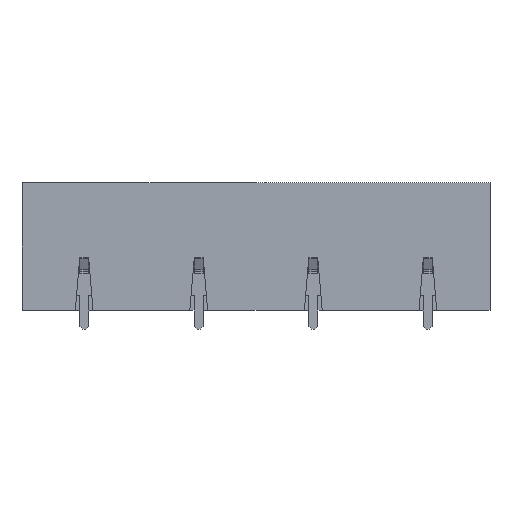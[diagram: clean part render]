
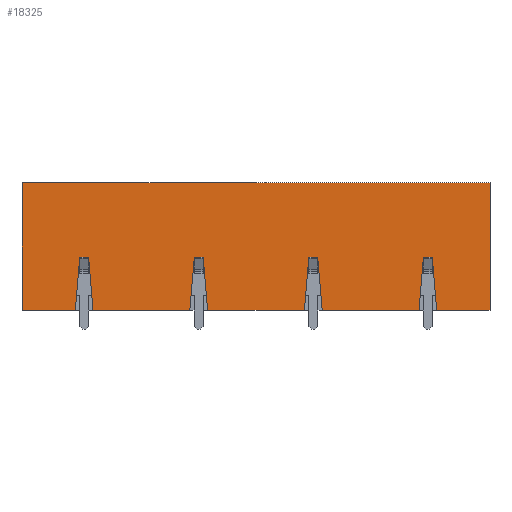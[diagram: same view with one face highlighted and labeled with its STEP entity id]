
A CAD part, left-side view. The second image highlights one B-rep face of the part: STEP entity #18325.
In plain terms, the highlighted planar face has unit normal (-1, 0, 0) as drawn and (1, 0, 0) by its records, which use the part's own axes.
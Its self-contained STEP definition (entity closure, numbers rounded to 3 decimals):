
#13220 = VERTEX_POINT('',#13221);
#13221 = CARTESIAN_POINT('',(-38.99,39.42,0.));
#13229 = EDGE_CURVE('',#13220,#13230,#13232,.T.);
#13230 = VERTEX_POINT('',#13231);
#13231 = CARTESIAN_POINT('',(-38.99,39.42,21.54));
#13232 = LINE('',#13233,#13234);
#13233 = CARTESIAN_POINT('',(-38.99,39.42,0.));
#13234 = VECTOR('',#13235,1.);
#13235 = DIRECTION('',(0.,0.,1.));
#13537 = VERTEX_POINT('',#13538);
#13538 = CARTESIAN_POINT('',(-38.99,-39.42,21.54));
#13544 = EDGE_CURVE('',#13545,#13537,#13547,.T.);
#13545 = VERTEX_POINT('',#13546);
#13546 = CARTESIAN_POINT('',(-38.99,-39.42,0.));
#13547 = LINE('',#13548,#13549);
#13548 = CARTESIAN_POINT('',(-38.99,-39.42,0.));
#13549 = VECTOR('',#13550,1.);
#13550 = DIRECTION('',(0.,0.,1.));
#13622 = EDGE_CURVE('',#13623,#13625,#13627,.T.);
#13623 = VERTEX_POINT('',#13624);
#13624 = CARTESIAN_POINT('',(-38.99,10.4,9.));
#13625 = VERTEX_POINT('',#13626);
#13626 = CARTESIAN_POINT('',(-38.99,11.15,0.));
#13627 = LINE('',#13628,#13629);
#13628 = CARTESIAN_POINT('',(-38.99,10.4,9.));
#13629 = VECTOR('',#13630,1.);
#13630 = DIRECTION('',(-0.,0.083,-0.997));
#13710 = EDGE_CURVE('',#13711,#13713,#13715,.T.);
#13711 = VERTEX_POINT('',#13712);
#13712 = CARTESIAN_POINT('',(-38.99,8.15,0.));
#13713 = VERTEX_POINT('',#13714);
#13714 = CARTESIAN_POINT('',(-38.99,8.9,9.));
#13715 = LINE('',#13716,#13717);
#13716 = CARTESIAN_POINT('',(-38.99,8.15,0.));
#13717 = VECTOR('',#13718,1.);
#13718 = DIRECTION('',(0.,0.083,0.997));
#14569 = EDGE_CURVE('',#14570,#14572,#14574,.T.);
#14570 = VERTEX_POINT('',#14571);
#14571 = CARTESIAN_POINT('',(-38.99,29.7,9.));
#14572 = VERTEX_POINT('',#14573);
#14573 = CARTESIAN_POINT('',(-38.99,30.45,0.));
#14574 = LINE('',#14575,#14576);
#14575 = CARTESIAN_POINT('',(-38.99,29.7,9.));
#14576 = VECTOR('',#14577,1.);
#14577 = DIRECTION('',(-0.,0.083,-0.997));
#14609 = EDGE_CURVE('',#14610,#14570,#14612,.T.);
#14610 = VERTEX_POINT('',#14611);
#14611 = CARTESIAN_POINT('',(-38.99,28.2,9.));
#14612 = LINE('',#14613,#14614);
#14613 = CARTESIAN_POINT('',(-38.99,28.2,9.));
#14614 = VECTOR('',#14615,1.);
#14615 = DIRECTION('',(0.,1.,0.));
#14633 = EDGE_CURVE('',#14634,#14610,#14636,.T.);
#14634 = VERTEX_POINT('',#14635);
#14635 = CARTESIAN_POINT('',(-38.99,27.45,0.));
#14636 = LINE('',#14637,#14638);
#14637 = CARTESIAN_POINT('',(-38.99,27.45,0.));
#14638 = VECTOR('',#14639,1.);
#14639 = DIRECTION('',(0.,0.083,0.997));
#14761 = EDGE_CURVE('',#13713,#13623,#14762,.T.);
#14762 = LINE('',#14763,#14764);
#14763 = CARTESIAN_POINT('',(-38.99,8.9,9.));
#14764 = VECTOR('',#14765,1.);
#14765 = DIRECTION('',(0.,1.,0.));
#14890 = EDGE_CURVE('',#14891,#14893,#14895,.T.);
#14891 = VERTEX_POINT('',#14892);
#14892 = CARTESIAN_POINT('',(-38.99,-8.9,9.));
#14893 = VERTEX_POINT('',#14894);
#14894 = CARTESIAN_POINT('',(-38.99,-8.15,0.));
#14895 = LINE('',#14896,#14897);
#14896 = CARTESIAN_POINT('',(-38.99,-8.9,9.));
#14897 = VECTOR('',#14898,1.);
#14898 = DIRECTION('',(-0.,0.083,-0.997));
#14930 = EDGE_CURVE('',#14931,#14891,#14933,.T.);
#14931 = VERTEX_POINT('',#14932);
#14932 = CARTESIAN_POINT('',(-38.99,-10.4,9.));
#14933 = LINE('',#14934,#14935);
#14934 = CARTESIAN_POINT('',(-38.99,-10.4,9.));
#14935 = VECTOR('',#14936,1.);
#14936 = DIRECTION('',(0.,1.,0.));
#14954 = EDGE_CURVE('',#14955,#14931,#14957,.T.);
#14955 = VERTEX_POINT('',#14956);
#14956 = CARTESIAN_POINT('',(-38.99,-11.15,0.));
#14957 = LINE('',#14958,#14959);
#14958 = CARTESIAN_POINT('',(-38.99,-11.15,0.));
#14959 = VECTOR('',#14960,1.);
#14960 = DIRECTION('',(0.,0.083,0.997));
#15166 = EDGE_CURVE('',#15167,#15169,#15171,.T.);
#15167 = VERTEX_POINT('',#15168);
#15168 = CARTESIAN_POINT('',(-38.99,-28.2,9.));
#15169 = VERTEX_POINT('',#15170);
#15170 = CARTESIAN_POINT('',(-38.99,-27.45,0.));
#15171 = LINE('',#15172,#15173);
#15172 = CARTESIAN_POINT('',(-38.99,-28.2,9.));
#15173 = VECTOR('',#15174,1.);
#15174 = DIRECTION('',(-0.,0.083,-0.997));
#15206 = EDGE_CURVE('',#15207,#15167,#15209,.T.);
#15207 = VERTEX_POINT('',#15208);
#15208 = CARTESIAN_POINT('',(-38.99,-29.7,9.));
#15209 = LINE('',#15210,#15211);
#15210 = CARTESIAN_POINT('',(-38.99,-29.7,9.));
#15211 = VECTOR('',#15212,1.);
#15212 = DIRECTION('',(0.,1.,0.));
#15230 = EDGE_CURVE('',#15231,#15207,#15233,.T.);
#15231 = VERTEX_POINT('',#15232);
#15232 = CARTESIAN_POINT('',(-38.99,-30.45,0.));
#15233 = LINE('',#15234,#15235);
#15234 = CARTESIAN_POINT('',(-38.99,-30.45,0.));
#15235 = VECTOR('',#15236,1.);
#15236 = DIRECTION('',(0.,0.083,0.997));
#15361 = EDGE_CURVE('',#13537,#13230,#15362,.T.);
#15362 = LINE('',#15363,#15364);
#15363 = CARTESIAN_POINT('',(-38.99,-39.42,21.54));
#15364 = VECTOR('',#15365,1.);
#15365 = DIRECTION('',(0.,1.,0.));
#16432 = EDGE_CURVE('',#13545,#15231,#16433,.T.);
#16433 = LINE('',#16434,#16435);
#16434 = CARTESIAN_POINT('',(-38.99,-39.42,0.));
#16435 = VECTOR('',#16436,1.);
#16436 = DIRECTION('',(0.,1.,0.));
#16441 = EDGE_CURVE('',#15169,#14955,#16442,.T.);
#16442 = LINE('',#16443,#16444);
#16443 = CARTESIAN_POINT('',(-38.99,-39.42,0.));
#16444 = VECTOR('',#16445,1.);
#16445 = DIRECTION('',(0.,1.,0.));
#16455 = EDGE_CURVE('',#14893,#13711,#16456,.T.);
#16456 = LINE('',#16457,#16458);
#16457 = CARTESIAN_POINT('',(-38.99,-39.42,0.));
#16458 = VECTOR('',#16459,1.);
#16459 = DIRECTION('',(0.,1.,0.));
#16464 = EDGE_CURVE('',#13625,#14634,#16465,.T.);
#16465 = LINE('',#16466,#16467);
#16466 = CARTESIAN_POINT('',(-38.99,-39.42,0.));
#16467 = VECTOR('',#16468,1.);
#16468 = DIRECTION('',(0.,1.,0.));
#16478 = EDGE_CURVE('',#14572,#13220,#16479,.T.);
#16479 = LINE('',#16480,#16481);
#16480 = CARTESIAN_POINT('',(-38.99,-39.42,0.));
#16481 = VECTOR('',#16482,1.);
#16482 = DIRECTION('',(0.,1.,0.));
#18325 = ADVANCED_FACE('',(#18326),#18348,.F.);
#18326 = FACE_BOUND('',#18327,.F.);
#18327 = EDGE_LOOP('',(#18328,#18329,#18330,#18331,#18332,#18333,#18334,
    #18335,#18336,#18337,#18338,#18339,#18340,#18341,#18342,#18343,
    #18344,#18345,#18346,#18347));
#18328 = ORIENTED_EDGE('',*,*,#16432,.F.);
#18329 = ORIENTED_EDGE('',*,*,#13544,.T.);
#18330 = ORIENTED_EDGE('',*,*,#15361,.T.);
#18331 = ORIENTED_EDGE('',*,*,#13229,.F.);
#18332 = ORIENTED_EDGE('',*,*,#16478,.F.);
#18333 = ORIENTED_EDGE('',*,*,#14569,.F.);
#18334 = ORIENTED_EDGE('',*,*,#14609,.F.);
#18335 = ORIENTED_EDGE('',*,*,#14633,.F.);
#18336 = ORIENTED_EDGE('',*,*,#16464,.F.);
#18337 = ORIENTED_EDGE('',*,*,#13622,.F.);
#18338 = ORIENTED_EDGE('',*,*,#14761,.F.);
#18339 = ORIENTED_EDGE('',*,*,#13710,.F.);
#18340 = ORIENTED_EDGE('',*,*,#16455,.F.);
#18341 = ORIENTED_EDGE('',*,*,#14890,.F.);
#18342 = ORIENTED_EDGE('',*,*,#14930,.F.);
#18343 = ORIENTED_EDGE('',*,*,#14954,.F.);
#18344 = ORIENTED_EDGE('',*,*,#16441,.F.);
#18345 = ORIENTED_EDGE('',*,*,#15166,.F.);
#18346 = ORIENTED_EDGE('',*,*,#15206,.F.);
#18347 = ORIENTED_EDGE('',*,*,#15230,.F.);
#18348 = PLANE('',#18349);
#18349 = AXIS2_PLACEMENT_3D('',#18350,#18351,#18352);
#18350 = CARTESIAN_POINT('',(-38.99,-39.42,0.));
#18351 = DIRECTION('',(-1.,0.,0.));
#18352 = DIRECTION('',(0.,1.,0.));
